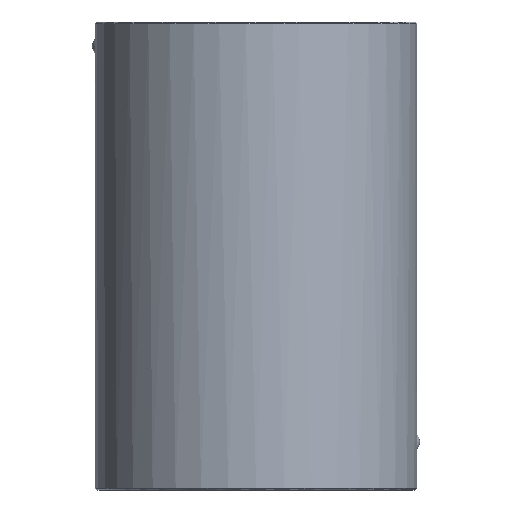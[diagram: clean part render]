
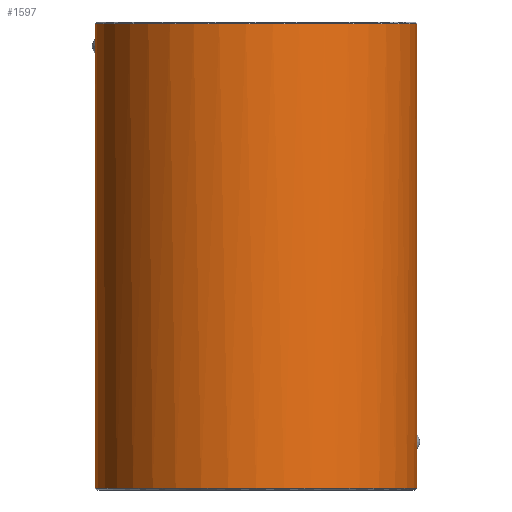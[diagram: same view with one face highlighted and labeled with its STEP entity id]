
A CAD part, front view. The second image highlights one B-rep face of the part: STEP entity #1597.
In plain terms, the highlighted cylindrical face has radius 27.5 mm (diameter 55 mm), a partial arc.
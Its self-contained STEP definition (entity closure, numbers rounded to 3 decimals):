
#1369=CARTESIAN_POINT('Vertex',(-27.5,0.,0.3)) ;
#1376=CARTESIAN_POINT('Vertex',(27.5,0.,0.3)) ;
#1379=CARTESIAN_POINT('Axis2P3D Location',(0.,0.,0.3)) ;
#1497=CARTESIAN_POINT('Axis2P3D Location',(0.,0.,80.)) ;
#1502=CARTESIAN_POINT('Line Origine',(27.5,0.,80.)) ;
#1506=CARTESIAN_POINT('Vertex',(27.5,0.,6.877)) ;
#1510=CARTESIAN_POINT('Control Point',(27.468,-1.333,8.463)) ;
#1511=CARTESIAN_POINT('Control Point',(27.463,-1.429,7.999)) ;
#1512=CARTESIAN_POINT('Control Point',(27.468,-1.314,7.487)) ;
#1513=CARTESIAN_POINT('Control Point',(27.49,-0.949,7.076)) ;
#1514=CARTESIAN_POINT('Control Point',(27.5,-0.474,6.877)) ;
#1515=CARTESIAN_POINT('Control Point',(27.5,0.,6.877)) ;
#1516=CARTESIAN_POINT('Vertex',(27.468,-1.333,8.463)) ;
#1520=CARTESIAN_POINT('Control Point',(27.5,0.,9.523)) ;
#1521=CARTESIAN_POINT('Control Point',(27.5,-0.461,9.523)) ;
#1522=CARTESIAN_POINT('Control Point',(27.488,-0.924,9.322)) ;
#1523=CARTESIAN_POINT('Control Point',(27.472,-1.239,8.914)) ;
#1524=CARTESIAN_POINT('Control Point',(27.468,-1.333,8.463)) ;
#1525=CARTESIAN_POINT('Vertex',(27.5,0.,9.523)) ;
#1528=CARTESIAN_POINT('Line Origine',(27.5,0.,80.)) ;
#1532=CARTESIAN_POINT('Vertex',(27.5,0.,79.7)) ;
#1536=CARTESIAN_POINT('Control Point',(-27.5,0.,79.7)) ;
#1537=CARTESIAN_POINT('Control Point',(-27.5,-4.32,79.7)) ;
#1538=CARTESIAN_POINT('Control Point',(-26.652,-8.639,79.7)) ;
#1539=CARTESIAN_POINT('Control Point',(-24.955,-12.737,79.7)) ;
#1540=CARTESIAN_POINT('Control Point',(-20.045,-20.045,79.7)) ;
#1541=CARTESIAN_POINT('Control Point',(-12.737,-24.955,79.7)) ;
#1542=CARTESIAN_POINT('Control Point',(-8.639,-26.652,79.7)) ;
#1543=CARTESIAN_POINT('Control Point',(0.,-28.348,79.7)) ;
#1544=CARTESIAN_POINT('Control Point',(8.639,-26.652,79.7)) ;
#1545=CARTESIAN_POINT('Control Point',(12.737,-24.955,79.7)) ;
#1546=CARTESIAN_POINT('Control Point',(20.045,-20.045,79.7)) ;
#1547=CARTESIAN_POINT('Control Point',(24.955,-12.737,79.7)) ;
#1548=CARTESIAN_POINT('Control Point',(26.652,-8.639,79.7)) ;
#1549=CARTESIAN_POINT('Control Point',(27.5,-4.32,79.7)) ;
#1550=CARTESIAN_POINT('Control Point',(27.5,0.,79.7)) ;
#1551=CARTESIAN_POINT('Vertex',(-27.5,0.,79.7)) ;
#1554=CARTESIAN_POINT('Line Origine',(-27.5,0.,80.)) ;
#1558=CARTESIAN_POINT('Vertex',(-27.5,0.,77.223)) ;
#1562=CARTESIAN_POINT('Control Point',(-27.468,-1.333,75.637)) ;
#1563=CARTESIAN_POINT('Control Point',(-27.463,-1.429,76.101)) ;
#1564=CARTESIAN_POINT('Control Point',(-27.468,-1.314,76.613)) ;
#1565=CARTESIAN_POINT('Control Point',(-27.49,-0.949,77.024)) ;
#1566=CARTESIAN_POINT('Control Point',(-27.5,-0.474,77.223)) ;
#1567=CARTESIAN_POINT('Control Point',(-27.5,0.,77.223)) ;
#1568=CARTESIAN_POINT('Vertex',(-27.468,-1.333,75.637)) ;
#1572=CARTESIAN_POINT('Control Point',(-27.5,0.,74.577)) ;
#1573=CARTESIAN_POINT('Control Point',(-27.5,-0.461,74.577)) ;
#1574=CARTESIAN_POINT('Control Point',(-27.488,-0.924,74.778)) ;
#1575=CARTESIAN_POINT('Control Point',(-27.472,-1.239,75.186)) ;
#1576=CARTESIAN_POINT('Control Point',(-27.468,-1.333,75.637)) ;
#1577=CARTESIAN_POINT('Vertex',(-27.5,0.,74.577)) ;
#1580=CARTESIAN_POINT('Line Origine',(-27.5,0.,80.)) ;
#1380=DIRECTION('Axis2P3D Direction',(0.,-0.,1.)) ;
#1498=DIRECTION('Axis2P3D Direction',(0.,0.,-1.)) ;
#1499=DIRECTION('Axis2P3D XDirection',(1.,0.,0.)) ;
#1503=DIRECTION('Vector Direction',(0.,0.,-1.)) ;
#1529=DIRECTION('Vector Direction',(0.,0.,-1.)) ;
#1555=DIRECTION('Vector Direction',(0.,0.,-1.)) ;
#1581=DIRECTION('Vector Direction',(0.,0.,-1.)) ;
#1381=AXIS2_PLACEMENT_3D('Circle Axis2P3D',#1379,#1380,$) ;
#1500=AXIS2_PLACEMENT_3D('Cylinder Axis2P3D',#1497,#1498,#1499) ;
#1586=ORIENTED_EDGE('',*,*,#1508,.T.) ;
#1587=ORIENTED_EDGE('',*,*,#1518,.F.) ;
#1588=ORIENTED_EDGE('',*,*,#1527,.F.) ;
#1589=ORIENTED_EDGE('',*,*,#1534,.T.) ;
#1590=ORIENTED_EDGE('',*,*,#1553,.F.) ;
#1591=ORIENTED_EDGE('',*,*,#1560,.T.) ;
#1592=ORIENTED_EDGE('',*,*,#1570,.F.) ;
#1593=ORIENTED_EDGE('',*,*,#1579,.F.) ;
#1594=ORIENTED_EDGE('',*,*,#1584,.T.) ;
#1595=ORIENTED_EDGE('',*,*,#1383,.T.) ;
#1504=VECTOR('Line Direction',#1503,1.) ;
#1530=VECTOR('Line Direction',#1529,1.) ;
#1556=VECTOR('Line Direction',#1555,1.) ;
#1582=VECTOR('Line Direction',#1581,1.) ;
#1597=ADVANCED_FACE('730-48x80',(#1596),#1501,.T.) ;
#1509=B_SPLINE_CURVE_WITH_KNOTS('',5,(#1510,#1511,#1512,#1513,#1514,#1515),.UNSPECIFIED.,.F.,.U.,(6,6),(0.,3.36),.UNSPECIFIED.) ;
#1519=B_SPLINE_CURVE_WITH_KNOTS('',4,(#1520,#1521,#1522,#1523,#1524),.UNSPECIFIED.,.F.,.U.,(5,5),(0.,2.611),.UNSPECIFIED.) ;
#1535=B_SPLINE_CURVE_WITH_KNOTS('',5,(#1536,#1537,#1538,#1539,#1540,#1541,#1542,#1543,#1544,#1545,#1546,#1547,#1548,#1549,#1550),.UNSPECIFIED.,.F.,.U.,(6,3,3,3,6),(-43.197,-21.598,0.,21.598,43.197),.UNSPECIFIED.) ;
#1561=B_SPLINE_CURVE_WITH_KNOTS('',5,(#1562,#1563,#1564,#1565,#1566,#1567),.UNSPECIFIED.,.F.,.U.,(6,6),(0.,3.36),.UNSPECIFIED.) ;
#1571=B_SPLINE_CURVE_WITH_KNOTS('',4,(#1572,#1573,#1574,#1575,#1576),.UNSPECIFIED.,.F.,.U.,(5,5),(0.,2.611),.UNSPECIFIED.) ;
#1382=CIRCLE('generated circle',#1381,27.5) ;
#1501=CYLINDRICAL_SURFACE('generated cylinder',#1500,27.5) ;
#1383=EDGE_CURVE('',#1370,#1377,#1382,.T.) ;
#1508=EDGE_CURVE('',#1377,#1507,#1505,.F.) ;
#1518=EDGE_CURVE('',#1517,#1507,#1509,.T.) ;
#1527=EDGE_CURVE('',#1526,#1517,#1519,.T.) ;
#1534=EDGE_CURVE('',#1526,#1533,#1531,.F.) ;
#1553=EDGE_CURVE('',#1552,#1533,#1535,.T.) ;
#1560=EDGE_CURVE('',#1552,#1559,#1557,.T.) ;
#1570=EDGE_CURVE('',#1569,#1559,#1561,.T.) ;
#1579=EDGE_CURVE('',#1578,#1569,#1571,.T.) ;
#1584=EDGE_CURVE('',#1578,#1370,#1583,.T.) ;
#1585=EDGE_LOOP('',(#1586,#1587,#1588,#1589,#1590,#1591,#1592,#1593,#1594,#1595)) ;
#1596=FACE_OUTER_BOUND('',#1585,.T.) ;
#1505=LINE('Line',#1502,#1504) ;
#1531=LINE('Line',#1528,#1530) ;
#1557=LINE('Line',#1554,#1556) ;
#1583=LINE('Line',#1580,#1582) ;
#1370=VERTEX_POINT('',#1369) ;
#1377=VERTEX_POINT('',#1376) ;
#1507=VERTEX_POINT('',#1506) ;
#1517=VERTEX_POINT('',#1516) ;
#1526=VERTEX_POINT('',#1525) ;
#1533=VERTEX_POINT('',#1532) ;
#1552=VERTEX_POINT('',#1551) ;
#1559=VERTEX_POINT('',#1558) ;
#1569=VERTEX_POINT('',#1568) ;
#1578=VERTEX_POINT('',#1577) ;
